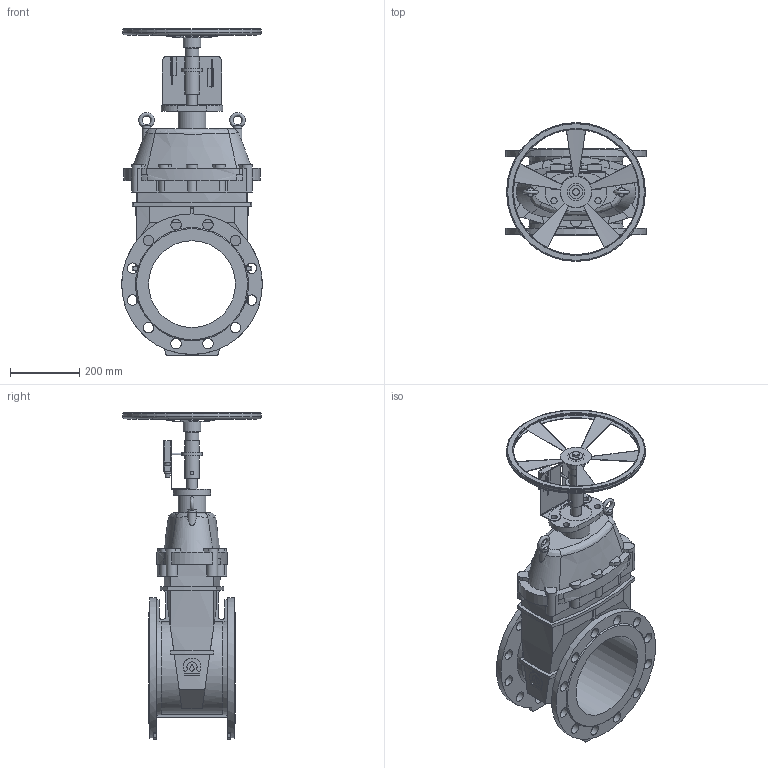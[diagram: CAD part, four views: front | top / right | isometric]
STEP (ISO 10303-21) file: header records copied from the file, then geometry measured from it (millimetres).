
FILE_DESCRIPTION(('STEP AP203'), '1');
FILE_NAME('Çàäâèæêà 47GV.M DN250 ñ ìàõîâèêîì è ÓÊÏ', '', ('UNSPECIFIED'), ('UNSPECIFIED'), 'ASCON STEP Converter 1.6', 'ASCON Math Kernel', '');
FILE_SCHEMA(('CONFIG_CONTROL_DESIGN'));
Length unit declared in the file: millimetre
Bounding box: 405 x 400 x 940 mm (x, y, z)
Volume: 22255154.9 mm3; surface area: 1481204.3 mm2
Topology: 4 solids, 4 shells, 508 faces, 1398 edges, 889 vertices
Faces by surface type: plane 254, cylinder 197, cone 33, torus 10, bspline 10, sphere 4
Full cylindrical faces by diameter (mm): 4 x4, 4.917 x1, 6 x1, 10 x2, 12 x4, 14 x2, 18 x4, 26 x2, 30 x25, 37 x1, 40 x1, 42 x2, 50 x1, 60 x1, 79 x1, 90 x1, 250 x1, 363 x1, 397 x1, 400 x1, 405 x2
Entity records: 42673 total; most frequent: CARTESIAN_POINT 25778, DIRECTION 2676, ORIENTED_EDGE 2620, EDGE_CURVE 1310, AXIS2_PLACEMENT_3D 1035, VERTEX_POINT 887, EDGE_LOOP 669, LINE 606
